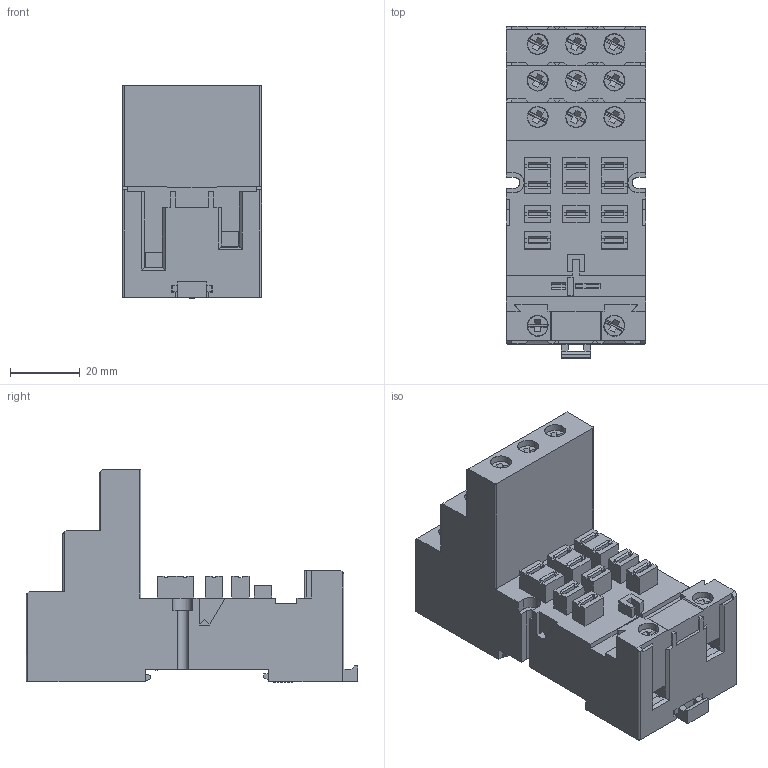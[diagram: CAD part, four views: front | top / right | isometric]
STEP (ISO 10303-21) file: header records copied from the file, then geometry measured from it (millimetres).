
FILE_DESCRIPTION(('STEP AP214'),'2;1');
FILE_NAME('9203.stp','2010-08-06T11:35:45',(''),(''),'2007.1.106','THINKDESIGN','');
FILE_SCHEMA(('AUTOMOTIVE_DESIGN'));
Products named in the file (1): None
Bounding box: 40 x 95.3 x 61.15 mm (x, y, z)
Surface area: 32265.7 mm2 (no closed solid volume)
Topology: 0 solids, 0 shells, 886 faces, 4794 edges, 4794 vertices
Faces by surface type: plane 806, cylinder 61, bspline 19
Full cylindrical faces by diameter (mm): 2 x1, 2.85 x11, 5.8 x11, 6 x11
Entity records: 49052 total; most frequent: CARTESIAN_POINT 13059, DIRECTION 6330, COMPOSITE_CURVE_SEGMENT 4794, TRIMMED_CURVE 4403, VECTOR 4210, LINE 4210, AXIS2_PLACEMENT_3D 1060, OUTER_BOUNDARY_CURVE 886
